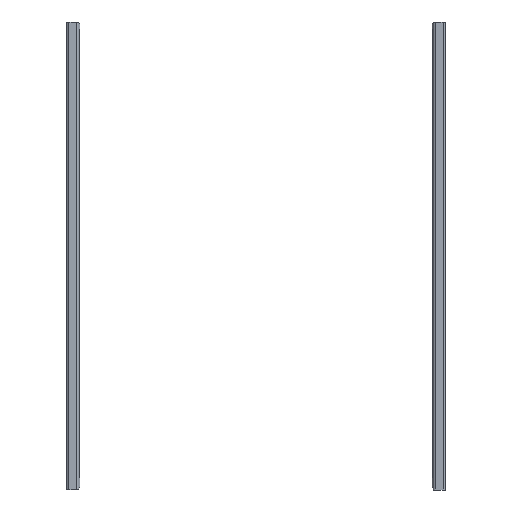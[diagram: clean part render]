
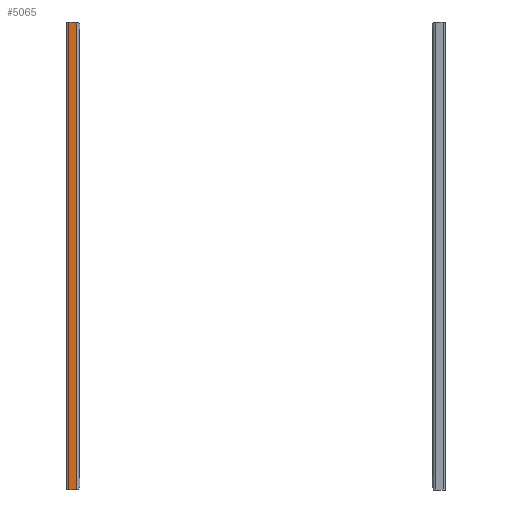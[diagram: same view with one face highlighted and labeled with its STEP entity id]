
A CAD part, front view. The second image highlights one B-rep face of the part: STEP entity #5065.
In plain terms, the highlighted planar face has unit normal (0, -1, 0).
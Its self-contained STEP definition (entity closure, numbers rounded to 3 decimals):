
#615=LINE('',#7634,#1057);
#755=LINE('',#8030,#1197);
#756=LINE('',#8033,#1198);
#757=LINE('',#8034,#1199);
#1057=VECTOR('',#6091,7.6);
#1197=VECTOR('',#6543,450.);
#1198=VECTOR('',#6546,7.6);
#1199=VECTOR('',#6547,450.);
#1445=PLANE('',#5471);
#1636=FACE_OUTER_BOUND('',#1939,.T.);
#1939=EDGE_LOOP('',(#4319,#4320,#4321,#4322));
#2515=VERTEX_POINT('',#7631);
#2516=VERTEX_POINT('',#7633);
#2616=VERTEX_POINT('',#8028);
#2617=VERTEX_POINT('',#8032);
#3027=EDGE_CURVE('',#2515,#2516,#615,.T.);
#3221=EDGE_CURVE('',#2616,#2515,#755,.T.);
#3222=EDGE_CURVE('',#2616,#2617,#756,.T.);
#3223=EDGE_CURVE('',#2516,#2617,#757,.T.);
#4319=ORIENTED_EDGE('',*,*,#3221,.F.);
#4320=ORIENTED_EDGE('',*,*,#3222,.T.);
#4321=ORIENTED_EDGE('',*,*,#3223,.F.);
#4322=ORIENTED_EDGE('',*,*,#3027,.F.);
#5065=ADVANCED_FACE('',(#1636),#1445,.T.);
#5471=AXIS2_PLACEMENT_3D('',#8031,#6544,#6545);
#6091=DIRECTION('',(-1.,0.,0.));
#6543=DIRECTION('',(0.,0.,-1.));
#6544=DIRECTION('center_axis',(0.,-1.,0.));
#6545=DIRECTION('ref_axis',(-1.,0.,0.));
#6546=DIRECTION('',(-1.,0.,0.));
#6547=DIRECTION('',(0.,0.,1.));
#7631=CARTESIAN_POINT('',(9.6,-22.25,-450.));
#7633=CARTESIAN_POINT('',(2.,-22.25,-450.));
#7634=CARTESIAN_POINT('',(11.6,-22.25,-450.));
#8028=CARTESIAN_POINT('',(9.6,-22.25,0.));
#8030=CARTESIAN_POINT('',(9.6,-22.25,0.));
#8031=CARTESIAN_POINT('Origin',(11.6,-22.25,0.));
#8032=CARTESIAN_POINT('',(2.,-22.25,0.));
#8033=CARTESIAN_POINT('',(11.6,-22.25,0.));
#8034=CARTESIAN_POINT('',(2.,-22.25,0.));
